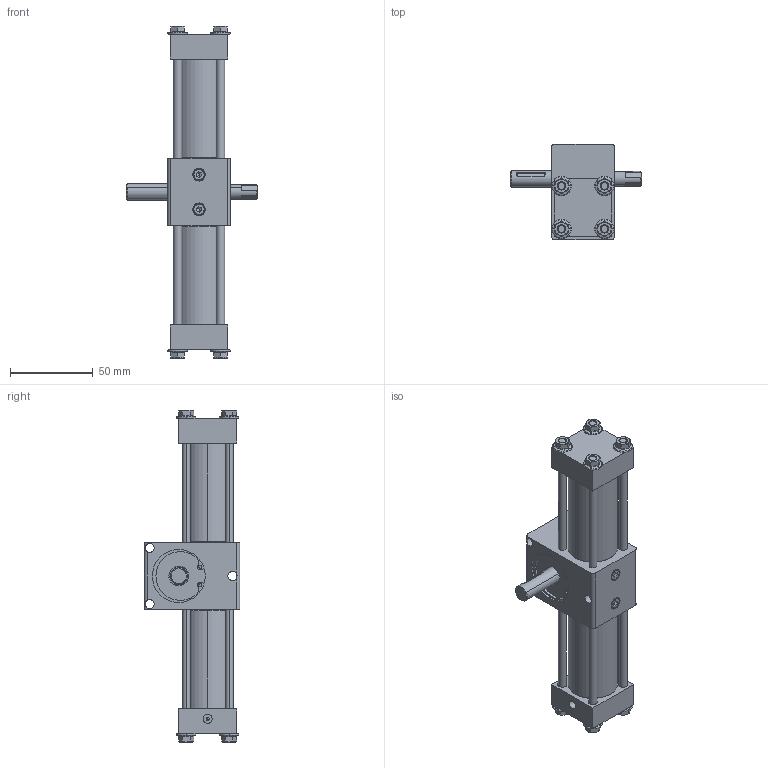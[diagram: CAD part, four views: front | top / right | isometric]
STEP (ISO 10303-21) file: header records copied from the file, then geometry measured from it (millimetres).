
FILE_DESCRIPTION (( 'STEP AP214' ), '1' );
FILE_NAME ('25_ROTARY_ACTUATOR.STEP', '2018-02-22T07:36:24', ( '' ), ( '' ), 'SwSTEP 2.0', 'SolidWorks 2016', '' );
FILE_SCHEMA (( 'AUTOMOTIVE_DESIGN' ));
Length unit declared in the file: millimetre
Products named in the file (15): 25_delrin_yatak; basic internal retaining ring_am_B27.7M - 3BM1-32; instrument ball bearing_68_am_AFBMA 12.1.4.1 - 0100-15 - 20,SI,NC,20_68; 25_rulman_yatak; instrument ball bearing_68_am_AFBMA 12.1.4.1 - 0090-17 - 14,SI,NC,14_68; spur gear_am_M1-22D牢-P朗YON; 10_k.m齦; KASTAS-K53-12X18X5; M6_SAPLAMA; 25_KAPAK; 26_30_boru; 25_ORTA_BLOK; 25_ROTARY_ACTUATOR; socket head cap screw_am_B18.3.1M - 4 x 0.7 x 10 Hex SHCS -- 10NHX; hex flange nut_am_B18.2.2.4M - Hex flange nut, M5 x 0.8 --N
Assembly tree (31 placements, depth 2):
  25_ROTARY_ACTUATOR
    25_ORTA_BLOK
    26_30_boru  x2
    25_KAPAK  x2
    M6_SAPLAMA  x8
    KASTAS-K53-12X18X5
    10_k.m齦
    spur gear_am_M1-22D牢-P朗YON
    instrument ball bearing_68_am_AFBMA 12.1.4.1 - 0090-17 - 14,SI,NC,14_68
    25_rulman_yatak
    instrument ball bearing_68_am_AFBMA 12.1.4.1 - 0100-15 - 20,SI,NC,20_68
    basic internal retaining ring_am_B27.7M - 3BM1-32
    25_delrin_yatak
    hex flange nut_am_B18.2.2.4M - Hex flange nut, M5 x 0.8 --N  x8
    socket head cap screw_am_B18.3.1M - 4 x 0.7 x 10 Hex SHCS -- 10NHX  x2
Bounding box: 79.5 x 58 x 201 mm (x, y, z)
Volume: 143054.7 mm3; surface area: 84896.4 mm2
Topology: 31 solids, 31 shells, 905 faces, 2124 edges, 1312 vertices
Faces by surface type: cylinder 381, plane 222, cone 152, bspline 106, torus 44
Entity records: 19654 total; most frequent: CARTESIAN_POINT 5245, DIRECTION 2987, ORIENTED_EDGE 2782, EDGE_CURVE 1391, AXIS2_PLACEMENT_3D 1259, VERTEX_POINT 881, CIRCLE 725, EDGE_LOOP 646
